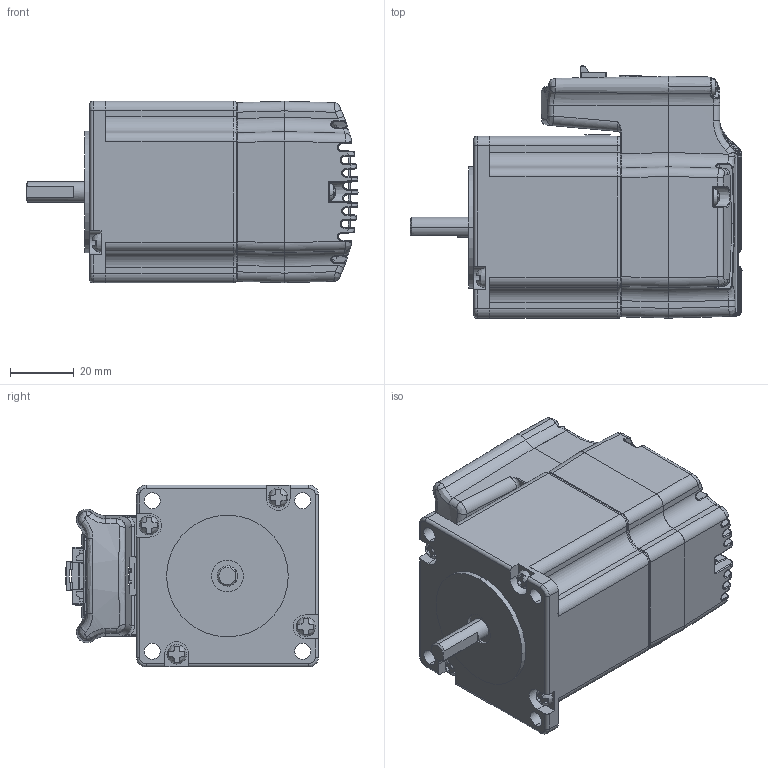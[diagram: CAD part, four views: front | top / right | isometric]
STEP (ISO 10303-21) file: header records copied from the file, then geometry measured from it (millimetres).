
FILE_DESCRIPTION (( 'STEP AP203' ), '1' );
FILE_NAME ('P26-MO-056-01-R00.STEP', '2015-04-15T07:16:36', ( '' ), ( '' ), 'SwSTEP 2.0', 'SolidWorks 2013', '' );
FILE_SCHEMA (( 'CONFIG_CONTROL_DESIGN' ));
Length unit declared in the file: millimetre
Products named in the file (20): RS-232C 鱔褐醴喀攪; M26-EC-056-01-R00; ﾆﾞｽｺ ﾀﾔｷﾂ ｹ貎ﾄ ｼｳﾁ､ ｽｺﾀｧﾄ｡-1; M16-EC-042-01-R00; ﾆﾞｽｺ ﾀﾔｷﾂ ｹ貎ﾄ ｼｳﾁ､ ｽｺﾀｧﾄ｡-2; ﾀﾔﾃ箙ﾂ ﾁ｢ｼﾓ ﾄｿｳﾘﾅﾍ; 蝶嬪纂-1; 瞪錳薄樓醴喀攪-1; 蝶嬪纂-2; 瞪錳薄樓醴喀攪-2; 匙飘况农 ID 钎矫 棺 惑怕 钎矫; 瞪錳薄樓醴喀攪-3; M25-MO-056-01-R00(BM-56S-BT-01); 烹脚加档 汲沥 胶困摹; 瞪錳薄樓醴喀攪-4; M15-EC-042-05-R00; round cross head screw_ks_KS 1023 RC - M3 x 20-N; 瞪錳薄樓醴喀攪-5; M15-EC-056-02-R00; P26-MO-056-01-R00
Assembly tree (24 placements, depth 2):
  P26-MO-056-01-R00
    M25-MO-056-01-R00(BM-56S-BT-01)
    M15-EC-042-05-R00
    M15-EC-056-02-R00
    M26-EC-056-01-R00
    M16-EC-042-01-R00
    ﾀﾔﾃ箙ﾂ ﾁ｢ｼﾓ ﾄｿｳﾘﾅﾍ
    瞪錳薄樓醴喀攪-1
    瞪錳薄樓醴喀攪-2
    瞪錳薄樓醴喀攪-3
    瞪錳薄樓醴喀攪-4
    瞪錳薄樓醴喀攪-5
    RS-232C 鱔褐醴喀攪  x2
    ﾆﾞｽｺ ﾀﾔｷﾂ ｹ貎ﾄ ｼｳﾁ､ ｽｺﾀｧﾄ｡-1
    ﾆﾞｽｺ ﾀﾔｷﾂ ｹ貎ﾄ ｼｳﾁ､ ｽｺﾀｧﾄ｡-2
    蝶嬪纂-1
    蝶嬪纂-2
    匙飘况农 ID 钎矫 棺 惑怕 钎矫
    烹脚加档 汲沥 胶困摹
    round cross head screw_ks_KS 1023 RC - M3 x 20-N  x5
Bounding box: 104 x 79.2 x 57 mm (x, y, z)
Volume: 183808.7 mm3; surface area: 61794.4 mm2
Topology: 22 solids, 24 shells, 2673 faces, 6984 edges, 4368 vertices
Faces by surface type: plane 1243, cylinder 828, bspline 477, cone 83, torus 32, sphere 10
Entity records: 121716 total; most frequent: CARTESIAN_POINT 66348, ORIENTED_EDGE 12568, DIRECTION 8482, EDGE_CURVE 6303, VERTEX_POINT 3977, LINE 3120, VECTOR 3120, AXIS2_PLACEMENT_3D 2681
